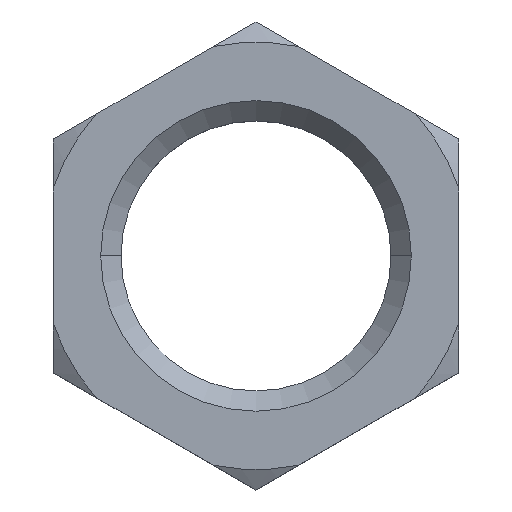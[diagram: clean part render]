
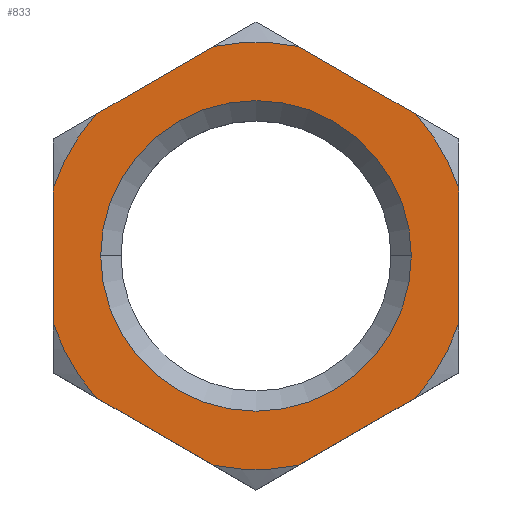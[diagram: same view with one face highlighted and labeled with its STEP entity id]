
A CAD part, top view. The second image highlights one B-rep face of the part: STEP entity #833.
In plain terms, the highlighted planar face has unit normal (0, 0, 1).
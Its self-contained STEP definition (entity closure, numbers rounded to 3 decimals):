
#6 = DIRECTION ( 'NONE',  ( -1., 0., 0. ) ) ;
#7 = ORIENTED_EDGE ( 'NONE', *, *, #255, .T. ) ;
#9 = CARTESIAN_POINT ( 'NONE',  ( 11.5, 0., 4.55 ) ) ;
#19 = LINE ( 'NONE', #166, #756 ) ;
#22 = CARTESIAN_POINT ( 'NONE',  ( 0., 0., 4.55 ) ) ;
#23 = EDGE_CURVE ( 'NONE', #906, #704, #703, .T. ) ;
#41 = EDGE_CURVE ( 'NONE', #558, #378, #19, .T. ) ;
#60 = AXIS2_PLACEMENT_3D ( 'NONE', #238, #740, #810 ) ;
#64 = LINE ( 'NONE', #188, #773 ) ;
#70 = VERTEX_POINT ( 'NONE', #525 ) ;
#82 = CIRCLE ( 'NONE', #427, 11.5 ) ;
#94 = VECTOR ( 'NONE', #206, 1000. ) ;
#104 = DIRECTION ( 'NONE',  ( 0., 0., -1. ) ) ;
#111 = LINE ( 'NONE', #645, #844 ) ;
#112 = CARTESIAN_POINT ( 'NONE',  ( 3.145, -15.505, 4.55 ) ) ;
#125 = ORIENTED_EDGE ( 'NONE', *, *, #23, .T. ) ;
#133 = CIRCLE ( 'NONE', #455, 15.821 ) ;
#161 = CARTESIAN_POINT ( 'NONE',  ( -15., 8.66, 4.55 ) ) ;
#166 = CARTESIAN_POINT ( 'NONE',  ( 15., -8.66, 4.55 ) ) ;
#169 = DIRECTION ( 'NONE',  ( 0., -1., 0. ) ) ;
#180 = ORIENTED_EDGE ( 'NONE', *, *, #292, .F. ) ;
#188 = CARTESIAN_POINT ( 'NONE',  ( -15., -8.66, 4.55 ) ) ;
#189 = AXIS2_PLACEMENT_3D ( 'NONE', #284, #357, #6 ) ;
#191 = DIRECTION ( 'NONE',  ( 0., 0., -1. ) ) ;
#193 = ORIENTED_EDGE ( 'NONE', *, *, #515, .T. ) ;
#195 = CARTESIAN_POINT ( 'NONE',  ( 15., 5.029, 4.55 ) ) ;
#206 = DIRECTION ( 'NONE',  ( -0.866, -0.5, 0. ) ) ;
#210 = LINE ( 'NONE', #279, #94 ) ;
#213 = VERTEX_POINT ( 'NONE', #805 ) ;
#238 = CARTESIAN_POINT ( 'NONE',  ( 0., 0., 4.55 ) ) ;
#242 = CARTESIAN_POINT ( 'NONE',  ( 11.855, -10.476, 4.55 ) ) ;
#243 = VERTEX_POINT ( 'NONE', #112 ) ;
#244 = CARTESIAN_POINT ( 'NONE',  ( -11.5, 0., 4.55 ) ) ;
#255 = EDGE_CURVE ( 'NONE', #704, #906, #82, .T. ) ;
#259 = ORIENTED_EDGE ( 'NONE', *, *, #657, .T. ) ;
#264 = DIRECTION ( 'NONE',  ( 0.866, -0.5, 0. ) ) ;
#266 = CARTESIAN_POINT ( 'NONE',  ( 0., 0., 4.55 ) ) ;
#279 = CARTESIAN_POINT ( 'NONE',  ( 0., 17.321, 4.55 ) ) ;
#284 = CARTESIAN_POINT ( 'NONE',  ( 0., 0., 4.55 ) ) ;
#289 = ORIENTED_EDGE ( 'NONE', *, *, #41, .T. ) ;
#292 = EDGE_CURVE ( 'NONE', #558, #567, #133, .T. ) ;
#307 = VERTEX_POINT ( 'NONE', #900 ) ;
#311 = CARTESIAN_POINT ( 'NONE',  ( 15., -5.029, 4.55 ) ) ;
#318 = FACE_OUTER_BOUND ( 'NONE', #458, .T. ) ;
#319 = CARTESIAN_POINT ( 'NONE',  ( -3.145, 15.505, 4.55 ) ) ;
#324 = CARTESIAN_POINT ( 'NONE',  ( 0., 0., 4.55 ) ) ;
#327 = DIRECTION ( 'NONE',  ( 0., 0., 1. ) ) ;
#356 = EDGE_CURVE ( 'NONE', #542, #307, #454, .T. ) ;
#357 = DIRECTION ( 'NONE',  ( 0., 0., -1. ) ) ;
#365 = EDGE_CURVE ( 'NONE', #243, #415, #823, .T. ) ;
#375 = ORIENTED_EDGE ( 'NONE', *, *, #522, .F. ) ;
#378 = VERTEX_POINT ( 'NONE', #195 ) ;
#389 = ORIENTED_EDGE ( 'NONE', *, *, #598, .F. ) ;
#406 = DIRECTION ( 'NONE',  ( 0.866, 0.5, 0. ) ) ;
#415 = VERTEX_POINT ( 'NONE', #496 ) ;
#423 = VECTOR ( 'NONE', #406, 1000. ) ;
#424 = ORIENTED_EDGE ( 'NONE', *, *, #365, .F. ) ;
#425 = EDGE_CURVE ( 'NONE', #777, #307, #210, .T. ) ;
#427 = AXIS2_PLACEMENT_3D ( 'NONE', #549, #629, #555 ) ;
#443 = ORIENTED_EDGE ( 'NONE', *, *, #650, .T. ) ;
#454 = CIRCLE ( 'NONE', #827, 15.821 ) ;
#455 = AXIS2_PLACEMENT_3D ( 'NONE', #762, #695, #473 ) ;
#458 = EDGE_LOOP ( 'NONE', ( #180, #289, #737, #193, #389, #814, #683, #785, #375, #259, #424, #443 ) ) ;
#473 = DIRECTION ( 'NONE',  ( -1., 0., 0. ) ) ;
#479 = AXIS2_PLACEMENT_3D ( 'NONE', #266, #191, #562 ) ;
#496 = CARTESIAN_POINT ( 'NONE',  ( -3.145, -15.505, 4.55 ) ) ;
#507 = AXIS2_PLACEMENT_3D ( 'NONE', #22, #588, #786 ) ;
#515 = EDGE_CURVE ( 'NONE', #799, #70, #111, .T. ) ;
#517 = DIRECTION ( 'NONE',  ( 0., 1., 0. ) ) ;
#522 = EDGE_CURVE ( 'NONE', #213, #837, #589, .T. ) ;
#524 = AXIS2_PLACEMENT_3D ( 'NONE', #613, #104, #609 ) ;
#525 = CARTESIAN_POINT ( 'NONE',  ( 3.145, 15.505, 4.55 ) ) ;
#526 = LINE ( 'NONE', #161, #602 ) ;
#542 = VERTEX_POINT ( 'NONE', #852 ) ;
#549 = CARTESIAN_POINT ( 'NONE',  ( 0., 0., 4.55 ) ) ;
#555 = DIRECTION ( 'NONE',  ( 1., 0., 0. ) ) ;
#558 = VERTEX_POINT ( 'NONE', #311 ) ;
#560 = DIRECTION ( 'NONE',  ( 0., 0., -1. ) ) ;
#562 = DIRECTION ( 'NONE',  ( -1., 0., 0. ) ) ;
#567 = VERTEX_POINT ( 'NONE', #242 ) ;
#588 = DIRECTION ( 'NONE',  ( 0., 0., -1. ) ) ;
#589 = CIRCLE ( 'NONE', #189, 15.821 ) ;
#598 = EDGE_CURVE ( 'NONE', #777, #70, #884, .T. ) ;
#599 = CARTESIAN_POINT ( 'NONE',  ( -15., -5.029, 4.55 ) ) ;
#602 = VECTOR ( 'NONE', #169, 1000. ) ;
#609 = DIRECTION ( 'NONE',  ( -1., 0., 0. ) ) ;
#611 = CARTESIAN_POINT ( 'NONE',  ( 11.855, 10.476, 4.55 ) ) ;
#613 = CARTESIAN_POINT ( 'NONE',  ( 0., 0., 4.55 ) ) ;
#625 = CARTESIAN_POINT ( 'NONE',  ( 0., 0., 4.55 ) ) ;
#629 = DIRECTION ( 'NONE',  ( 0., 0., -1. ) ) ;
#640 = AXIS2_PLACEMENT_3D ( 'NONE', #324, #327, #680 ) ;
#644 = EDGE_LOOP ( 'NONE', ( #7, #125 ) ) ;
#645 = CARTESIAN_POINT ( 'NONE',  ( 15., 8.66, 4.55 ) ) ;
#650 = EDGE_CURVE ( 'NONE', #243, #567, #793, .T. ) ;
#657 = EDGE_CURVE ( 'NONE', #213, #415, #64, .T. ) ;
#669 = FACE_BOUND ( 'NONE', #644, .T. ) ;
#680 = DIRECTION ( 'NONE',  ( 1., 0., 0. ) ) ;
#683 = ORIENTED_EDGE ( 'NONE', *, *, #356, .F. ) ;
#695 = DIRECTION ( 'NONE',  ( 0., 0., -1. ) ) ;
#703 = CIRCLE ( 'NONE', #507, 11.5 ) ;
#704 = VERTEX_POINT ( 'NONE', #9 ) ;
#737 = ORIENTED_EDGE ( 'NONE', *, *, #848, .F. ) ;
#740 = DIRECTION ( 'NONE',  ( 0., 0., -1. ) ) ;
#744 = PLANE ( 'NONE',  #640 ) ;
#756 = VECTOR ( 'NONE', #517, 1000. ) ;
#762 = CARTESIAN_POINT ( 'NONE',  ( 0., 0., 4.55 ) ) ;
#773 = VECTOR ( 'NONE', #264, 1000. ) ;
#777 = VERTEX_POINT ( 'NONE', #319 ) ;
#785 = ORIENTED_EDGE ( 'NONE', *, *, #917, .T. ) ;
#786 = DIRECTION ( 'NONE',  ( 1., 0., 0. ) ) ;
#793 = LINE ( 'NONE', #875, #423 ) ;
#799 = VERTEX_POINT ( 'NONE', #611 ) ;
#805 = CARTESIAN_POINT ( 'NONE',  ( -11.855, -10.476, 4.55 ) ) ;
#806 = CIRCLE ( 'NONE', #60, 15.821 ) ;
#810 = DIRECTION ( 'NONE',  ( -1., 0., 0. ) ) ;
#814 = ORIENTED_EDGE ( 'NONE', *, *, #425, .T. ) ;
#823 = CIRCLE ( 'NONE', #479, 15.821 ) ;
#827 = AXIS2_PLACEMENT_3D ( 'NONE', #625, #560, #835 ) ;
#833 = ADVANCED_FACE ( 'NONE', ( #669, #318 ), #744, .T. ) ;
#835 = DIRECTION ( 'NONE',  ( -1., 0., 0. ) ) ;
#837 = VERTEX_POINT ( 'NONE', #599 ) ;
#844 = VECTOR ( 'NONE', #849, 1000. ) ;
#848 = EDGE_CURVE ( 'NONE', #799, #378, #806, .T. ) ;
#849 = DIRECTION ( 'NONE',  ( -0.866, 0.5, 0. ) ) ;
#852 = CARTESIAN_POINT ( 'NONE',  ( -15., 5.029, 4.55 ) ) ;
#875 = CARTESIAN_POINT ( 'NONE',  ( 0., -17.321, 4.55 ) ) ;
#884 = CIRCLE ( 'NONE', #524, 15.821 ) ;
#900 = CARTESIAN_POINT ( 'NONE',  ( -11.855, 10.476, 4.55 ) ) ;
#906 = VERTEX_POINT ( 'NONE', #244 ) ;
#917 = EDGE_CURVE ( 'NONE', #542, #837, #526, .T. ) ;
